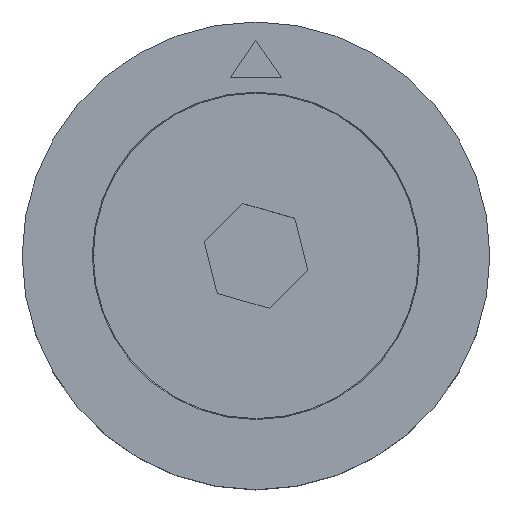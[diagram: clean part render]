
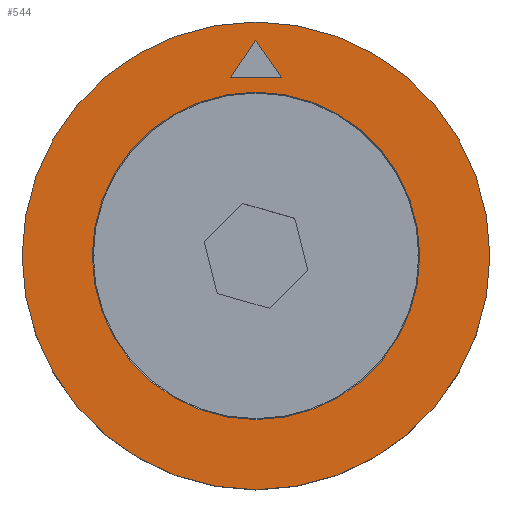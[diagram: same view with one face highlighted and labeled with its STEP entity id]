
A CAD part, top view. The second image highlights one B-rep face of the part: STEP entity #544.
In plain terms, the highlighted planar face has unit normal (0, 0, 1).
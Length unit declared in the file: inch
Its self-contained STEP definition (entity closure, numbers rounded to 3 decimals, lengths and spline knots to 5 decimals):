
#23 = DIRECTION ( 'NONE',  ( 0., 0., 1. ) ) ;
#24 = AXIS2_PLACEMENT_3D ( 'NONE', #765, #756, #700 ) ;
#39 = AXIS2_PLACEMENT_3D ( 'NONE', #113, #666, #330 ) ;
#43 = FACE_BOUND ( 'NONE', #368, .T. ) ;
#51 = AXIS2_PLACEMENT_3D ( 'NONE', #168, #239, #370 ) ;
#64 = FACE_OUTER_BOUND ( 'NONE', #650, .T. ) ;
#98 = ORIENTED_EDGE ( 'NONE', *, *, #635, .F. ) ;
#113 = CARTESIAN_POINT ( 'NONE',  ( 0., 0., 0. ) ) ;
#116 = EDGE_CURVE ( 'NONE', #377, #809, #120, .T. ) ;
#120 = CIRCLE ( 'NONE', #39, 0.19685 ) ;
#162 = CARTESIAN_POINT ( 'NONE',  ( 0., 0.19685, 0. ) ) ;
#167 = VERTEX_POINT ( 'NONE', #391 ) ;
#168 = CARTESIAN_POINT ( 'NONE',  ( 0., 0., 0. ) ) ;
#203 = CARTESIAN_POINT ( 'NONE',  ( 0.0216, 0.15, 0. ) ) ;
#216 = DIRECTION ( 'NONE',  ( -0.574, 0.819, 0. ) ) ;
#230 = CARTESIAN_POINT ( 'NONE',  ( -0.0216, 0.15, 0. ) ) ;
#239 = DIRECTION ( 'NONE',  ( 0., 0., 1. ) ) ;
#247 = VERTEX_POINT ( 'NONE', #339 ) ;
#269 = ORIENTED_EDGE ( 'NONE', *, *, #488, .F. ) ;
#278 = EDGE_CURVE ( 'NONE', #582, #167, #331, .T. ) ;
#298 = EDGE_CURVE ( 'NONE', #167, #324, #575, .T. ) ;
#308 = FACE_BOUND ( 'NONE', #804, .T. ) ;
#309 = CARTESIAN_POINT ( 'NONE',  ( 0., 0., 0. ) ) ;
#324 = VERTEX_POINT ( 'NONE', #230 ) ;
#329 = VECTOR ( 'NONE', #584, 39.37008 ) ;
#330 = DIRECTION ( 'NONE',  ( 1., 0., 0. ) ) ;
#331 = LINE ( 'NONE', #203, #435 ) ;
#339 = CARTESIAN_POINT ( 'NONE',  ( 0.1378, 0., 0. ) ) ;
#356 = ORIENTED_EDGE ( 'NONE', *, *, #298, .F. ) ;
#368 = EDGE_LOOP ( 'NONE', ( #654, #98, #356 ) ) ;
#370 = DIRECTION ( 'NONE',  ( 1., 0., 0. ) ) ;
#377 = VERTEX_POINT ( 'NONE', #692 ) ;
#391 = CARTESIAN_POINT ( 'NONE',  ( -0.00028, 0.18125, 0. ) ) ;
#418 = AXIS2_PLACEMENT_3D ( 'NONE', #309, #23, #428 ) ;
#428 = DIRECTION ( 'NONE',  ( 1., 0., 0. ) ) ;
#431 = DIRECTION ( 'NONE',  ( -1., 0., 0. ) ) ;
#435 = VECTOR ( 'NONE', #216, 39.37008 ) ;
#443 = CIRCLE ( 'NONE', #24, 0.1378 ) ;
#462 = AXIS2_PLACEMENT_3D ( 'NONE', #162, #574, #431 ) ;
#484 = EDGE_CURVE ( 'NONE', #809, #377, #866, .T. ) ;
#488 = EDGE_CURVE ( 'NONE', #247, #551, #768, .T. ) ;
#507 = CARTESIAN_POINT ( 'NONE',  ( -0.1378, 0., 0. ) ) ;
#510 = PLANE ( 'NONE',  #462 ) ;
#517 = CARTESIAN_POINT ( 'NONE',  ( -0.0216, 0.15, 0. ) ) ;
#544 = ADVANCED_FACE ( 'NONE', ( #43, #308, #64 ), #510, .F. ) ;
#551 = VERTEX_POINT ( 'NONE', #507 ) ;
#561 = ORIENTED_EDGE ( 'NONE', *, *, #484, .T. ) ;
#574 = DIRECTION ( 'NONE',  ( 0., 0., -1. ) ) ;
#575 = LINE ( 'NONE', #603, #607 ) ;
#582 = VERTEX_POINT ( 'NONE', #634 ) ;
#583 = ORIENTED_EDGE ( 'NONE', *, *, #116, .T. ) ;
#584 = DIRECTION ( 'NONE',  ( 1., 0., 0. ) ) ;
#603 = CARTESIAN_POINT ( 'NONE',  ( -0.00028, 0.18125, 0. ) ) ;
#607 = VECTOR ( 'NONE', #865, 39.37008 ) ;
#634 = CARTESIAN_POINT ( 'NONE',  ( 0.0216, 0.15, 0. ) ) ;
#635 = EDGE_CURVE ( 'NONE', #324, #582, #847, .T. ) ;
#650 = EDGE_LOOP ( 'NONE', ( #583, #561 ) ) ;
#654 = ORIENTED_EDGE ( 'NONE', *, *, #278, .F. ) ;
#666 = DIRECTION ( 'NONE',  ( 0., 0., 1. ) ) ;
#692 = CARTESIAN_POINT ( 'NONE',  ( 0.19685, 0., 0. ) ) ;
#700 = DIRECTION ( 'NONE',  ( 1., 0., 0. ) ) ;
#756 = DIRECTION ( 'NONE',  ( 0., 0., 1. ) ) ;
#765 = CARTESIAN_POINT ( 'NONE',  ( 0., 0., 0. ) ) ;
#768 = CIRCLE ( 'NONE', #51, 0.1378 ) ;
#795 = ORIENTED_EDGE ( 'NONE', *, *, #845, .F. ) ;
#804 = EDGE_LOOP ( 'NONE', ( #269, #795 ) ) ;
#809 = VERTEX_POINT ( 'NONE', #815 ) ;
#815 = CARTESIAN_POINT ( 'NONE',  ( -0.19685, 0., 0. ) ) ;
#845 = EDGE_CURVE ( 'NONE', #551, #247, #443, .T. ) ;
#847 = LINE ( 'NONE', #517, #329 ) ;
#865 = DIRECTION ( 'NONE',  ( -0.564, -0.826, 0. ) ) ;
#866 = CIRCLE ( 'NONE', #418, 0.19685 ) ;
